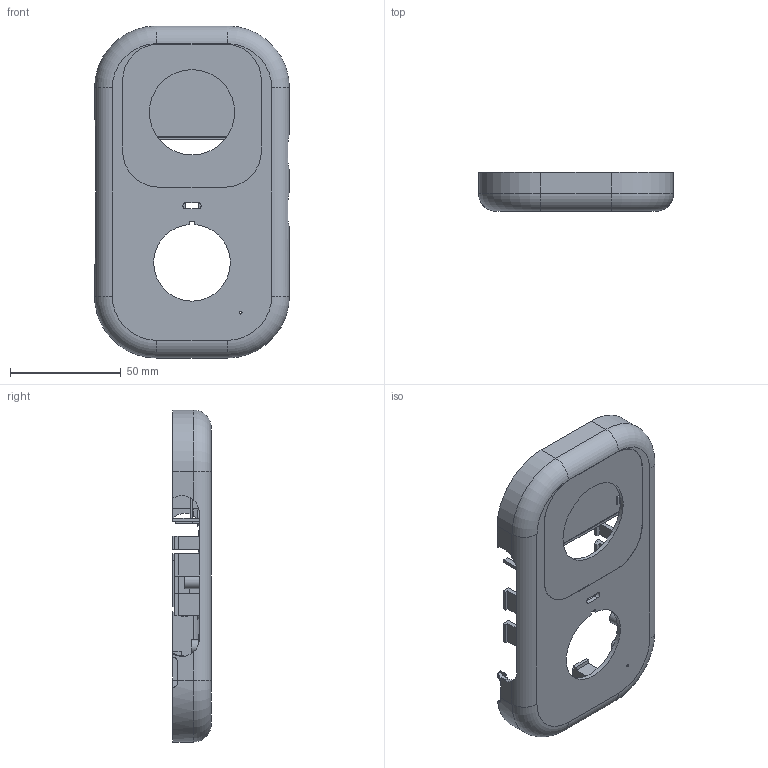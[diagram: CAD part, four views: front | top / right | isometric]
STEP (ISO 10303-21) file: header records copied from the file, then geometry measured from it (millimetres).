
FILE_DESCRIPTION(('Open CASCADE Model'),'2;1');
FILE_NAME('front_chassis_PA12','2026-09-06T11:31:17',('Author'),( 'Open CASCADE'),'Open CASCADE STEP processor 7.8','build123d', 'Unknown');
FILE_SCHEMA(('AUTOMOTIVE_DESIGN { 1 0 10303 214 1 1 1 1 }'));
Length unit declared in the file: millimetre
Products named in the file (1): front_chassis_PA12
Bounding box: 88 x 17.4 x 150 mm (x, y, z)
Volume: 43205.7 mm3; surface area: 44024.1 mm2
Topology: 1 solids, 1 shells, 352 faces, 908 edges, 595 vertices
Faces by surface type: plane 258, cylinder 80, torus 12, sphere 2
Full cylindrical faces by diameter (mm): 1.2 x1, 3.2 x14, 6.4 x6, 7.2 x4, 38.5 x1
Entity records: 25875 total; most frequent: CARTESIAN_POINT 7854, DIRECTION 3270, LINE 2110, VECTOR 2110, ORIENTED_EDGE 1814, PCURVE 1814, DEFINITIONAL_REPRESENTATION 1814, EDGE_CURVE 907
